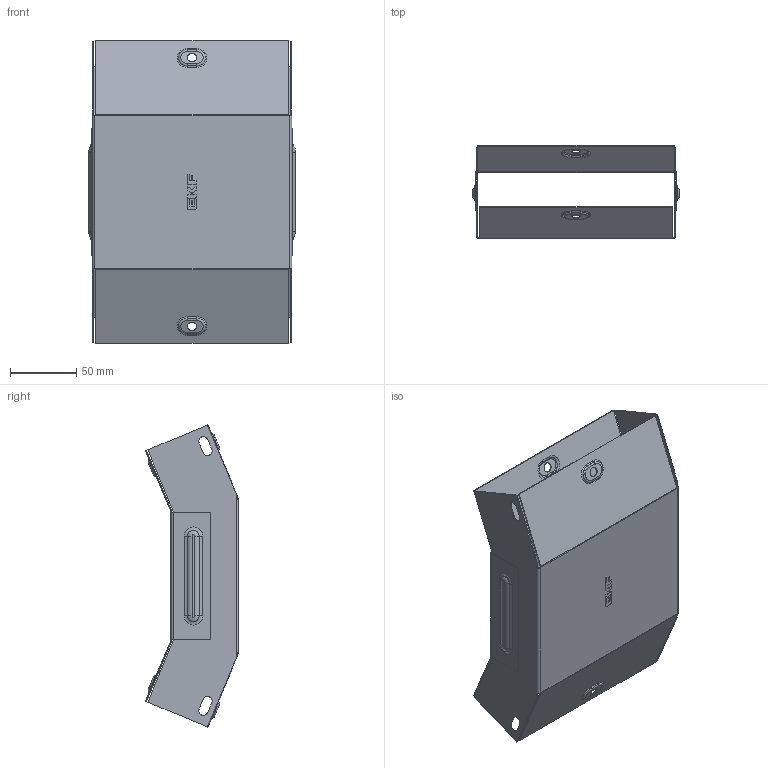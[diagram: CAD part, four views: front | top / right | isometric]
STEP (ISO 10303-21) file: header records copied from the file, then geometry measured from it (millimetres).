
FILE_DESCRIPTION (( 'STEP AP214' ), '1' );
FILE_NAME ('vi4550150_捘.STEP', '2019-06-10T08:29:01', ( '砐錪賧瘔蠈錪 Windows' ), ( '' ), 'SwSTEP 2.0', 'SolidWorks 2018', '' );
FILE_SCHEMA (( 'AUTOMOTIVE_DESIGN' ));
Length unit declared in the file: millimetre
Products named in the file (1): vi4550150_捘
Bounding box: 155.6 x 69.93 x 227.28 mm (x, y, z)
Volume: 72267.8 mm3; surface area: 182601.8 mm2
Topology: 2 solids, 2 shells, 416 faces, 1056 edges, 672 vertices
Faces by surface type: plane 222, cylinder 112, torus 64, bspline 18
Entity records: 13420 total; most frequent: CARTESIAN_POINT 3164, DIRECTION 2138, ORIENTED_EDGE 2112, EDGE_CURVE 1056, AXIS2_PLACEMENT_3D 719, VECTOR 700, LINE 700, VERTEX_POINT 672
